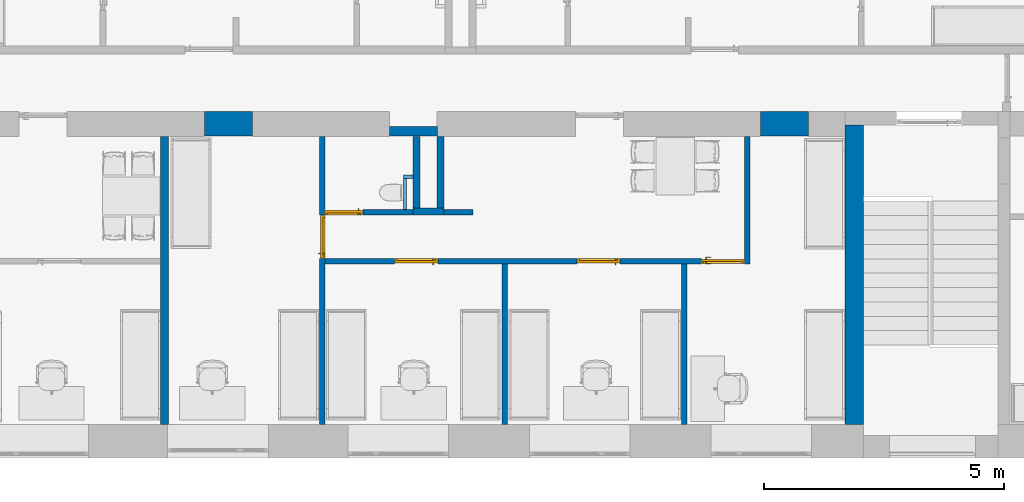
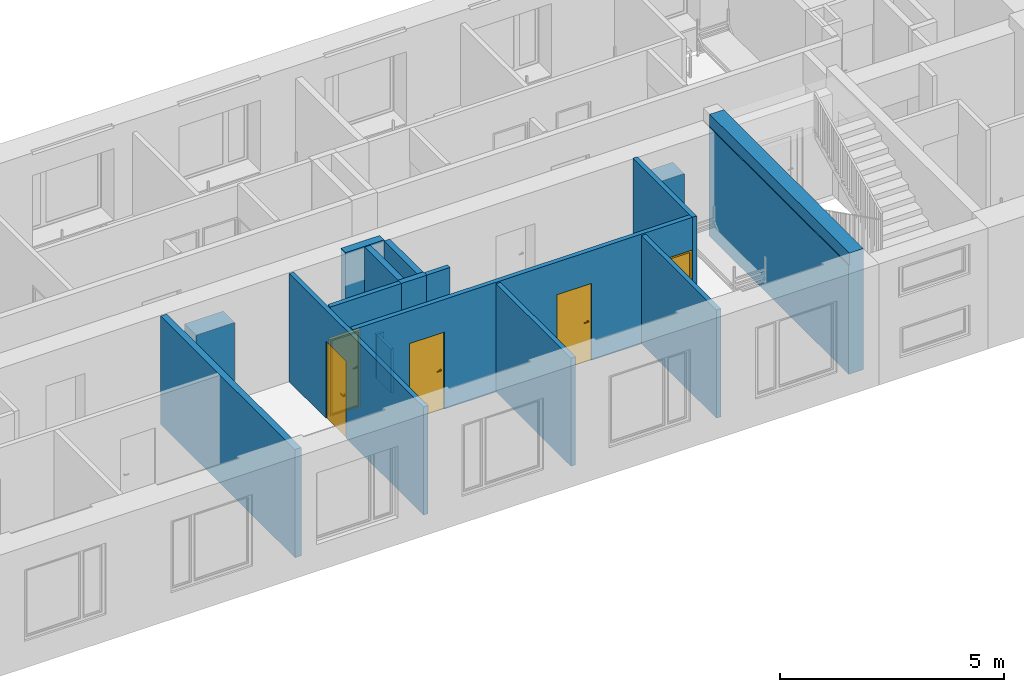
# One storey, part 8 of 48: 17 walls, 5 doors, 7 openings.
"""IFC2X3 building model written with IfcOpenShell, lengths in millimetres."""

import ifcopenshell
import ifcopenshell.guid

model = None  # the IFC model being written
_history = None  # IfcOwnerHistory: only IFC2X3 demands one
_inside = {}  # id of a spatial element -> (the spatial element, [elements in it])
_under = {}  # id of a project, library or spatial element -> (it, [spatial elements below it])
_declared = {}  # id of a project -> (the project, [libraries it declares])
_typed = {}  # id of a type object -> (the type object, [elements of that type])
_made_of = {}  # id of a material, layer set ... -> (it, [elements and type objects made of it])


def new_model(schema):
    """Start an empty IFC model of exactly this schema.

    Asked for "IFC4X3", IfcOpenShell would pick the latest addendum, in which some entities
    have other attributes; the version numbers below select the first issue.
    IFC2X3 requires an IfcOwnerHistory on every rooted entity: one is made here for all.
    """
    global model, _history
    if schema == "IFC4X3":
        model = ifcopenshell.file(schema_version=(4, 3, 0, 0))
    else:
        model = ifcopenshell.file(schema=schema)
    _inside.clear()
    _under.clear()
    _declared.clear()
    _typed.clear()
    _made_of.clear()
    _history = None
    if model.schema == "IFC2X3":
        org = make("IfcOrganization", Name="unknown")
        user = make(
            "IfcPersonAndOrganization",
            ThePerson=make("IfcPerson", FamilyName="unknown"),
            TheOrganization=org,
        )
        app = make(
            "IfcApplication",
            ApplicationDeveloper=org,
            Version="unknown",
            ApplicationFullName="unknown",
            ApplicationIdentifier="unknown",
        )
        _history = make(
            "IfcOwnerHistory",
            OwningUser=user,
            OwningApplication=app,
            ChangeAction="ADDED",
            CreationDate=0,
        )
    return model


def make(cls, **values):
    """One entity of the class cls with the attributes given. An attribute that is None is left unset."""
    return model.create_entity(
        cls, **{name: value for name, value in values.items() if value is not None}
    )


def entity(cls, *values):
    """Any entity or typed value of the class cls, its attributes in the order of the schema. None: left unset."""
    e = model.create_entity(cls)
    for i, value in enumerate(values):
        if value is not None:
            e[i] = value
    return e


def rooted(cls, **values):
    """An entity with a GlobalId (a new one), such as an element, a storey or a relation."""
    return make(cls, GlobalId=ifcopenshell.guid.new(), OwnerHistory=_history, **values)


def si_unit(unit_type, name, prefix=None):
    """IfcSIUnit, for example si_unit("LENGTHUNIT", "METRE", prefix="MILLI")."""
    return make("IfcSIUnit", UnitType=unit_type, Prefix=prefix, Name=name)


def converted_unit(unit_type, name, factor, base, dimensions=None, offset=None):
    """IfcConversionBasedUnit, such as the inch: factor (a typed value) times the base unit."""
    return make(
        "IfcConversionBasedUnit"
        if offset is None
        else "IfcConversionBasedUnitWithOffset",
        ConversionOffset=offset,
        Dimensions=None
        if dimensions is None
        else entity("IfcDimensionalExponents", *dimensions),
        UnitType=unit_type,
        Name=name,
        ConversionFactor=make(
            "IfcMeasureWithUnit", ValueComponent=factor, UnitComponent=base
        ),
    )


def derived_unit(unit_type, elements):
    """IfcDerivedUnit: a product of units, each with its exponent."""
    return make(
        "IfcDerivedUnit",
        Elements=[
            make("IfcDerivedUnitElement", Unit=unit, Exponent=power)
            for unit, power in elements
        ],
        UnitType=unit_type,
    )


def assignment(units):
    """IfcUnitAssignment: the units of a project."""
    return None if units is None else make("IfcUnitAssignment", Units=units)


def point(xyz):
    """IfcCartesianPoint."""
    return None if xyz is None else make("IfcCartesianPoint", Coordinates=xyz)


def direction(xyz):
    """IfcDirection."""
    return None if xyz is None else make("IfcDirection", DirectionRatios=xyz)


def frame(location, z_axis=None, x_axis=None):
    """IfcAxis2Placement3D, a coordinate frame: its origin and axes. An axis left out is left unset."""
    return make(
        "IfcAxis2Placement3D",
        Location=point(location),
        Axis=direction(z_axis),
        RefDirection=direction(x_axis),
    )


def frame_2d(location, x_axis=None):
    """IfcAxis2Placement2D, a coordinate frame in the plane: its origin and x axis."""
    return make(
        "IfcAxis2Placement2D", Location=point(location), RefDirection=direction(x_axis)
    )


def origin():
    """The frame at (0, 0, 0) with its axes left unset."""
    return frame((0.0, 0.0, 0.0))


def place(relative_to, where):
    """IfcLocalPlacement: puts the frame where relative to a parent placement (None: the world)."""
    return make(
        "IfcLocalPlacement", PlacementRelTo=relative_to, RelativePlacement=where
    )


def context(
    kind, dimensions, precision=None, world=None, true_north=None, identifier=None
):
    """IfcGeometricRepresentationContext, for example the 3D "Model" context."""
    return make(
        "IfcGeometricRepresentationContext",
        ContextIdentifier=identifier,
        ContextType=kind,
        CoordinateSpaceDimension=dimensions,
        Precision=precision,
        WorldCoordinateSystem=world,
        TrueNorth=true_north,
    )


def subcontext(parent, identifier, kind, view, scale=None):
    """IfcGeometricRepresentationSubContext, for example "Body" below "Model"."""
    return make(
        "IfcGeometricRepresentationSubContext",
        ContextIdentifier=identifier,
        ContextType=kind,
        ParentContext=parent,
        TargetScale=scale,
        TargetView=view,
    )


def project(units=None, contexts=None):
    """IfcProject with its units and contexts."""
    return rooted(
        "IfcProject",
        Name="project",
        RepresentationContexts=contexts,
        UnitsInContext=assignment(units),
    )


def spatial(cls, under=None, at=None, **own):
    """A site, building, storey or space (cls), placed at a placement, below another one or the project."""
    s = rooted(cls, ObjectPlacement=at, **own)
    if under is not None:
        _under.setdefault(under.id(), (under, []))[1].append(s)
    return s


def polyline(points):
    """IfcPolyline through the points."""
    return make("IfcPolyline", Points=[point(p) for p in points])


def profile(cls, at=None, kind="AREA", **sizes):
    """A parametric profile (cls). Its sizes go by their IFC names, for example OverallWidth=200.0."""
    return make(cls, ProfileType=kind, Position=at, **sizes)


def rectangle(**sizes):
    """IfcRectangleProfileDef."""
    return profile("IfcRectangleProfileDef", **sizes)


def extrude(swept, where, along, depth):
    """IfcExtrudedAreaSolid: the profile swept, set in the frame where, extruded along a direction by depth."""
    return make(
        "IfcExtrudedAreaSolid",
        SweptArea=swept,
        Position=where,
        ExtrudedDirection=direction(along),
        Depth=depth,
    )


def clip(a, b, op="DIFFERENCE"):
    """IfcBooleanClippingResult: the solid a cut by the half space b."""
    return make(
        "IfcBooleanClippingResult", Operator=op, FirstOperand=a, SecondOperand=b
    )


def bounded_halfspace(plane, agree, where, boundary):
    """IfcPolygonalBoundedHalfSpace: a half space limited to a polygon's prism."""
    return make(
        "IfcPolygonalBoundedHalfSpace",
        BaseSurface=make("IfcPlane", Position=plane),
        AgreementFlag=agree,
        Position=where,
        PolygonalBoundary=boundary,
    )


def faces_of(points, faces, orient=None, outer=None):
    """IfcFace entities. A face is a list of loops; a loop is a list of indices into points, from 0.

    orient and outer hold one flag for each loop. By default every Orientation is true, the
    first loop of a face is its IfcFaceOuterBound and the others are IfcFaceBound.
    """
    made = []
    for i, loops in enumerate(faces):
        bounds = []
        for j, loop in enumerate(loops):
            is_outer = j == 0 if outer is None else outer[i][j]
            bounds.append(
                make(
                    "IfcFaceOuterBound" if is_outer else "IfcFaceBound",
                    Bound=make("IfcPolyLoop", Polygon=[points[k] for k in loop]),
                    Orientation=True if orient is None else orient[i][j],
                )
            )
        made.append(make("IfcFace", Bounds=bounds))
    return made


def faceted_brep(points, faces, orient=None, outer=None, voids=None):
    """IfcFacetedBrep: a solid bounded by flat faces; with voids (closed shells), ...WithVoids."""
    shared = [point(p) for p in points]
    hull = make("IfcClosedShell", CfsFaces=faces_of(shared, faces, orient, outer))
    if voids is None:
        return make("IfcFacetedBrep", Outer=hull)
    return make(
        "IfcFacetedBrepWithVoids",
        Outer=hull,
        Voids=[
            make(cls, CfsFaces=faces_of(shared, fs, o, b)) for cls, fs, o, b in voids
        ],
    )


def shape(context_of_items, identifier, shape_type, items):
    """IfcShapeRepresentation: the items that make up one representation, for example the "Body"."""
    return make(
        "IfcShapeRepresentation",
        ContextOfItems=context_of_items,
        RepresentationIdentifier=identifier,
        RepresentationType=shape_type,
        Items=items,
    )


def source(mapping_origin, context_of_items, identifier, shape_type, items):
    """IfcRepresentationMap: a shape defined once, which mapped items show again and again."""
    return make(
        "IfcRepresentationMap",
        MappingOrigin=mapping_origin,
        MappedRepresentation=shape(context_of_items, identifier, shape_type, items),
    )


def transform(
    local_origin,
    x_axis=None,
    y_axis=None,
    z_axis=None,
    scale=None,
    scale2=None,
    scale3=None,
    uniform=True,
):
    """IfcCartesianTransformationOperator3D, or its non-uniform kind. x_axis, y_axis, z_axis: its Axis1, 2, 3."""
    if uniform:
        return make(
            "IfcCartesianTransformationOperator3D",
            Axis1=direction(x_axis),
            Axis2=direction(y_axis),
            LocalOrigin=point(local_origin),
            Scale=scale,
            Axis3=direction(z_axis),
        )
    return make(
        "IfcCartesianTransformationOperator3DnonUniform",
        Axis1=direction(x_axis),
        Axis2=direction(y_axis),
        LocalOrigin=point(local_origin),
        Scale=scale,
        Axis3=direction(z_axis),
        Scale2=scale2,
        Scale3=scale3,
    )


def mapped(mapping_source, mapping_target):
    """IfcMappedItem: shows the shape of a source again, moved by a transform."""
    return make(
        "IfcMappedItem", MappingSource=mapping_source, MappingTarget=mapping_target
    )


def material(Name=None, Category=None):
    """IfcMaterial."""
    return make("IfcMaterial", Name=Name, Category=Category)


def material_list(materials):
    """IfcMaterialList."""
    return make("IfcMaterialList", Materials=materials)


def layer(
    of_material, thickness, ventilated=None, Name=None, Category=None, Priority=None
):
    """IfcMaterialLayer: one layer of a wall or slab, of a material (None: an air gap)."""
    return make(
        "IfcMaterialLayer",
        Material=of_material,
        LayerThickness=thickness,
        IsVentilated=ventilated,
        Name=Name,
        Category=Category,
        Priority=Priority,
    )


def layer_set(layers, Name=None):
    """IfcMaterialLayerSet."""
    return make("IfcMaterialLayerSet", MaterialLayers=layers, LayerSetName=Name)


def layer_usage(for_layer_set, set_direction, sense, offset, extent=None):
    """IfcMaterialLayerSetUsage: how a layer set lies in its element."""
    return make(
        "IfcMaterialLayerSetUsage",
        ForLayerSet=for_layer_set,
        LayerSetDirection=set_direction,
        DirectionSense=sense,
        OffsetFromReferenceLine=offset,
        ReferenceExtent=extent,
    )


def made_of(thing, what):
    """Note that an element or type object is made of a material, layer set ...; save() writes the relation."""
    if what is not None:
        _made_of.setdefault(what.id(), (what, []))[1].append(thing)
    return thing


def type_object(cls, material=None, **own):
    """A type object (cls), such as IfcWallType, which elements share."""
    return made_of(rooted(cls, **own), material)


def type_shapes(of_type, sources):
    """Give a type object the sources (RepresentationMaps) that its elements show as mapped items."""
    of_type.RepresentationMaps = sources


def element(
    cls,
    number,
    at=None,
    inside=None,
    cuts=None,
    type_object=None,
    material=None,
    context=None,
    identifier="Body",
    shape_type=None,
    held_by="IfcProductDefinitionShape",
    body=None,
    shapes=None,
    **own,
):
    """One element of the class cls, such as IfcWall. Its Tag is "e" and its number.

    at: its placement. inside: the storey or other place that contains it. cuts: it is an
    opening in that element (IfcRelVoidsElement). A single representation is given by context,
    identifier, shape_type and body (its items); several are given by shapes. held_by: the class
    of the entity that holds the representations. save() writes the other relations.
    """
    e = rooted(cls, Tag="e%d" % number, ObjectPlacement=at, **own)
    if body is not None:
        shapes = [shape(context, identifier, shape_type, body)]
    if shapes is not None:
        e.Representation = make(held_by, Representations=shapes)
    if inside is not None:
        _inside.setdefault(inside.id(), (inside, []))[1].append(e)
    if cuts is not None:
        rooted(
            "IfcRelVoidsElement", RelatingBuildingElement=cuts, RelatedOpeningElement=e
        )
    if type_object is not None:
        _typed.setdefault(type_object.id(), (type_object, []))[1].append(e)
    return made_of(e, material)


def fill(opening, filler):
    """IfcRelFillsElement: the door or window that sits in an opening."""
    return rooted(
        "IfcRelFillsElement",
        RelatingOpeningElement=opening,
        RelatedBuildingElement=filler,
    )


def aggregate(whole, parts):
    """IfcRelAggregates: a whole, such as a stair, and the parts it consists of."""
    return rooted("IfcRelAggregates", RelatingObject=whole, RelatedObjects=parts)


def save(model, path):
    """Write the relations noted so far, then the file.

    IfcRelAggregates (storeys below a building ...), IfcRelContainedInSpatialStructure (elements
    in a storey), IfcRelDefinesByType, IfcRelAssociatesMaterial and IfcRelDeclares: one each for
    every whole, place, type object, material and project.
    """
    for whole, parts in _under.values():
        aggregate(whole, parts)
    for where, things in _inside.values():
        rooted(
            "IfcRelContainedInSpatialStructure",
            RelatedElements=things,
            RelatingStructure=where,
        )
    for kind, things in _typed.values():
        rooted("IfcRelDefinesByType", RelatedObjects=things, RelatingType=kind)
    for what, things in _made_of.values():
        rooted("IfcRelAssociatesMaterial", RelatedObjects=things, RelatingMaterial=what)
    for by, libraries in _declared.values():
        rooted("IfcRelDeclares", RelatingContext=by, RelatedDefinitions=libraries)
    model.write(path)


model = new_model("IFC2X3")

# Units and contexts
model_context = context("Model", 3, precision=0.01, world=origin(), true_north=direction((6.12303176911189e-17, 1.0)))
body_context = subcontext(model_context, "Body", "Model", "MODEL_VIEW")
ifc_project = project(units=[si_unit("LENGTHUNIT", "METRE", prefix="MILLI"), si_unit("AREAUNIT", "SQUARE_METRE"), si_unit("VOLUMEUNIT", "CUBIC_METRE"), converted_unit("PLANEANGLEUNIT", "DEGREE", entity("IfcRatioMeasure", 0.0174532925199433), si_unit("PLANEANGLEUNIT", "RADIAN"), dimensions=[0, 0, 0, 0, 0, 0, 0]), si_unit("MASSUNIT", "GRAM", prefix="KILO"), derived_unit("MASSDENSITYUNIT", [(si_unit("MASSUNIT", "GRAM", prefix="KILO"), 1), (si_unit("LENGTHUNIT", "METRE"), -3)]), si_unit("TIMEUNIT", "SECOND"), si_unit("FREQUENCYUNIT", "HERTZ"), si_unit("THERMODYNAMICTEMPERATUREUNIT", "DEGREE_CELSIUS"), derived_unit("THERMALTRANSMITTANCEUNIT", [(si_unit("MASSUNIT", "GRAM", prefix="KILO"), 1), (si_unit("THERMODYNAMICTEMPERATUREUNIT", "KELVIN"), -1), (si_unit("TIMEUNIT", "SECOND"), -3)]), derived_unit("VOLUMETRICFLOWRATEUNIT", [(si_unit("LENGTHUNIT", "METRE"), 3), (si_unit("TIMEUNIT", "SECOND"), -1)]), si_unit("ELECTRICCURRENTUNIT", "AMPERE"), si_unit("ELECTRICVOLTAGEUNIT", "VOLT"), si_unit("POWERUNIT", "WATT"), si_unit("FORCEUNIT", "NEWTON", prefix="KILO"), si_unit("ILLUMINANCEUNIT", "LUX"), si_unit("LUMINOUSFLUXUNIT", "LUMEN"), si_unit("LUMINOUSINTENSITYUNIT", "CANDELA"), derived_unit("USERDEFINED", [(si_unit("MASSUNIT", "GRAM", prefix="KILO"), -1), (si_unit("LENGTHUNIT", "METRE"), -2), (si_unit("TIMEUNIT", "SECOND"), 3), (si_unit("LUMINOUSFLUXUNIT", "LUMEN"), 1)]), derived_unit("LINEARVELOCITYUNIT", [(si_unit("LENGTHUNIT", "METRE"), 1), (si_unit("TIMEUNIT", "SECOND"), -1)]), si_unit("PRESSUREUNIT", "PASCAL"), derived_unit("USERDEFINED", [(si_unit("LENGTHUNIT", "METRE"), -2), (si_unit("MASSUNIT", "GRAM", prefix="KILO"), 1), (si_unit("TIMEUNIT", "SECOND"), -2)]), derived_unit("LINEARFORCEUNIT", [(si_unit("MASSUNIT", "GRAM", prefix="KILO"), 1), (si_unit("LENGTHUNIT", "METRE"), 1), (si_unit("TIMEUNIT", "SECOND"), -2), (si_unit("LENGTHUNIT", "METRE"), -1)]), derived_unit("PLANARFORCEUNIT", [(si_unit("MASSUNIT", "GRAM", prefix="KILO"), 1), (si_unit("LENGTHUNIT", "METRE"), 1), (si_unit("TIMEUNIT", "SECOND"), -2), (si_unit("LENGTHUNIT", "METRE"), -2)])], contexts=[model_context])

# Site, building, storey
site_placement = place(None, origin())
site = spatial("IfcSite", under=ifc_project, at=site_placement, Name="Default", CompositionType="ELEMENT")
building_placement = place(site_placement, origin())
building = spatial("IfcBuilding", under=site, at=building_placement, Name="SMA ARH", CompositionType="ELEMENT")
storey_placement = place(building_placement, frame((0.0, 0.0, 3300.0)))
storey = spatial("IfcBuildingStorey", under=building, at=storey_placement, Name="2 Korrus", CompositionType="ELEMENT", Elevation=3299.99999999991)

# Walls
ifc_material_1 = material(Name="EST. Müüritis. Väikeplokk. Kergkruusplokk")
ifc_layer_1 = layer(ifc_material_1, 150.0)
ifc_layer_set_1 = layer_set([ifc_layer_1], Name="Basic Wall:SS-02_ 150mm šahtide vahesein")
ifc_layer_usage_1 = layer_usage(ifc_layer_set_1, "AXIS2", "NEGATIVE", 75.0)
wall_type_1 = type_object("IfcWallType", Name="Basic Wall:SS-02_ 150mm šahtide vahesein", PredefinedType="STANDARD", material=ifc_layer_set_1)
wall_1_placement = place(storey_placement, frame((21495.0, 6000.0, 0.0), z_axis=(0.0, 0.0, 1.0), x_axis=(0.0, -1.0, 0.0)))
element("IfcWallStandardCase", 1, at=wall_1_placement, inside=storey, type_object=wall_type_1, material=ifc_layer_usage_1, Name="Basic Wall:SS-02_ 150mm šahtide vahesein", ObjectType="Basic Wall:SS-02_ 150mm šahtide vahesein", context=body_context, shape_type="SweptSolid", body=[
    extrude(rectangle(XDim=1490.00000000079, YDim=150.000000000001, at=frame_2d((745.000000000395, -7.105427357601e-15), x_axis=(-1.0, 0.0))), origin(), (0.0, 0.0, 1.0), 2989.99999999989),
])
ifc_layer_usage_2 = layer_usage(ifc_layer_set_1, "AXIS2", "NEGATIVE", 75.0)
wall_2_placement = place(storey_placement, frame((21420.0, 4435.0, 0.0)))
element("IfcWallStandardCase", 2, at=wall_2_placement, inside=storey, type_object=wall_type_1, material=ifc_layer_usage_2, Name="Basic Wall:SS-02_ 150mm šahtide vahesein", ObjectType="Basic Wall:SS-02_ 150mm šahtide vahesein", context=body_context, shape_type="SweptSolid", body=[
    extrude(rectangle(XDim=649.999999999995, YDim=150.000000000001, at=frame_2d((324.999999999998, -7.105427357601e-14), x_axis=(-1.0, 0.0))), origin(), (0.0, 0.0, 1.0), 2989.99999999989),
])
ifc_layer_usage_3 = layer_usage(ifc_layer_set_1, "AXIS2", "NEGATIVE", 75.0)
wall_3_placement = place(storey_placement, frame((21995.0, 4510.0, 0.0), z_axis=(0.0, 0.0, 1.0), x_axis=(0.0, 1.0, 0.0)))
element("IfcWallStandardCase", 3, at=wall_3_placement, inside=storey, type_object=wall_type_1, material=ifc_layer_usage_3, Name="Basic Wall:SS-02_ 150mm šahtide vahesein", ObjectType="Basic Wall:SS-02_ 150mm šahtide vahesein", context=body_context, shape_type="SweptSolid", body=[
    extrude(rectangle(XDim=1490.00000000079, YDim=150.000000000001, at=frame_2d((745.000000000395, 3.5527136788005e-14), x_axis=(-1.0, 0.0))), origin(), (0.0, 0.0, 1.0), 2979.99999999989),
])
ifc_material_2 = material(Name="_ol.olev sein")
ifc_layer_2 = layer(ifc_material_2, 380.0)
ifc_layer_set_2 = layer_set([ifc_layer_2], Name="Basic Wall:Generic - 380mm")
ifc_layer_usage_4 = layer_usage(ifc_layer_set_2, "AXIS2", "POSITIVE", -190.0)
wall_type_2 = type_object("IfcWallType", Name="Basic Wall:Generic - 380mm", PredefinedType="STANDARD", material=ifc_layer_set_2)
wall_4_placement = place(storey_placement, frame((30620.0, 6240.0, 0.0), z_axis=(0.0, 0.0, 1.0), x_axis=(0.0, -1.0, 0.0)))
element("IfcWallStandardCase", 4, at=wall_4_placement, inside=storey, type_object=wall_type_2, material=ifc_layer_usage_4, Name="Basic Wall:Generic - 380mm", ObjectType="Basic Wall:Generic - 380mm", context=body_context, shape_type="Clipping", body=[
    clip(clip(extrude(rectangle(XDim=6240.00000000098, YDim=380.0, at=frame_2d((3120.00000000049, 1.70530256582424e-13), x_axis=(-1.0, 0.0))), origin(), (0.0, 0.0, 1.0), 3299.99999999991), bounded_halfspace(frame((6240.0, -170.0, 2970.0), z_axis=(0.0, 0.0, -1.0), x_axis=(-1.0, 0.0, 0.0)), True, frame((6240.0, -170.0, 2970.0), z_axis=(0.0, 0.0, -1.0), x_axis=(-1.0, 0.0, 0.0)), polyline([(0.0, 0.0), (0.0, -20.0), (6000.0, -20.0), (6240.0, -20.0), (6240.0, 0.0), (0.0, 0.0)]))), bounded_halfspace(frame((0.0, -170.0, 2970.0), z_axis=(0.0, 1.0, 0.0), x_axis=(0.0, 0.0, 1.0)), True, frame((0.0, -170.0, 2970.0), z_axis=(0.0, 1.0, 0.0), x_axis=(0.0, 0.0, 1.0)), polyline([(0.0, 0.0), (330.0, 0.0), (330.0, 235.0), (330.0, 6240.0), (0.0, 6240.0), (0.0, 0.0)]))),
])
ifc_material_3 = material(Name="EST. Ehitusplaat. Kipsplaat")
ifc_layer_3 = layer(ifc_material_3, 12.5)
ifc_layer_4 = layer(ifc_material_3, 12.5)
ifc_material_4 = material(Name="EST. Soojustus. Mineraalvill. Default")
ifc_layer_5 = layer(ifc_material_4, 50.0)
ifc_layer_6 = layer(ifc_material_3, 12.5)
ifc_layer_7 = layer(ifc_material_4, 50.0)
ifc_layer_8 = layer(ifc_material_3, 12.5)
ifc_layer_9 = layer(ifc_material_3, 12.5)
ifc_layer_set_3 = layer_set([ifc_layer_3, ifc_layer_4, ifc_layer_5, ifc_layer_6, ifc_layer_7, ifc_layer_8, ifc_layer_9], Name="Basic Wall:SS-04_Kips, 50+50 mm metallkarkass 2")
ifc_layer_usage_5 = layer_usage(ifc_layer_set_3, "AXIS2", "NEGATIVE", 81.25)
wall_type_3 = type_object("IfcWallType", Name="Basic Wall:SS-04_Kips, 50+50 mm metallkarkass 2", PredefinedType="STANDARD", material=ifc_layer_set_3)
wall_5_placement = place(storey_placement, frame((16239.2500000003, 0.0, 0.0), z_axis=(0.0, 0.0, 1.0), x_axis=(0.0, 1.0, 0.0)))
element("IfcWallStandardCase", 5, at=wall_5_placement, inside=storey, type_object=wall_type_3, material=ifc_layer_usage_5, Name="Basic Wall:SS-04_Kips, 50+50 mm metallkarkass 2", ObjectType="Basic Wall:SS-04_Kips, 50+50 mm metallkarkass 2", context=body_context, shape_type="SweptSolid", body=[
    extrude(rectangle(XDim=6000.00000000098, YDim=162.500000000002, at=frame_2d((3000.00000000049, -7.105427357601e-15), x_axis=(-1.0, 0.0))), origin(), (0.0, 0.0, 1.0), 2949.99999999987),
])

# Wall, opening
ifc_layer_10 = layer(ifc_material_3, 12.5)
ifc_layer_11 = layer(ifc_material_3, 12.5)
ifc_layer_12 = layer(ifc_material_4, 66.0)
ifc_layer_13 = layer(ifc_material_3, 12.5)
ifc_layer_14 = layer(ifc_material_3, 12.5)
ifc_layer_set_4 = layer_set([ifc_layer_10, ifc_layer_11, ifc_layer_12, ifc_layer_13, ifc_layer_14], Name="Basic Wall:SS-05_Kips, 66mm metallkarkass")
ifc_layer_usage_6 = layer_usage(ifc_layer_set_4, "AXIS2", "NEGATIVE", 58.0)
wall_type_4 = type_object("IfcWallType", Name="Basic Wall:SS-05_Kips, 66mm metallkarkass", PredefinedType="STANDARD", material=ifc_layer_set_4)
wall_6_placement = place(storey_placement, frame((28388.4550000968, 6000.0, 0.0), z_axis=(0.0, 0.0, 1.0), x_axis=(0.0, -1.0, 0.0)))
wall_6 = element("IfcWallStandardCase", 6, at=wall_6_placement, inside=storey, type_object=wall_type_4, material=ifc_layer_usage_6, Name="Basic Wall:SS-05_Kips, 66mm metallkarkass", ObjectType="Basic Wall:SS-05_Kips, 66mm metallkarkass", context=body_context, shape_type="SweptSolid", body=[
    extrude(rectangle(XDim=2656.00000000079, YDim=116.0, at=frame_2d((1328.0000000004, 7.8159700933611e-14), x_axis=(-1.0, 0.0))), origin(), (0.0, 0.0, 1.0), 2989.99999999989),
])
opening_1_placement = place(wall_6_placement, origin())
element("IfcOpeningElement", 7, at=opening_1_placement, cuts=wall_6, Name="Basic Wall:SS-05_Kips, 66mm metallkarkass", ObjectType="Opening", context=body_context, shape_type="SweptSolid", body=[
    extrude(rectangle(XDim=2099.99999999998, YDim=116.0, at=frame_2d((-2.70006239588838e-13, 0.0), x_axis=(0.0, 1.0))), frame((2598.0, -958.0, 1050.0), z_axis=(0.0, 1.0, 0.0), x_axis=(-1.0, 0.0, 0.0)), (0.0, 0.0, 1.0), 899.999999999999),
])

# Wall, openings, doors
ifc_layer_usage_7 = layer_usage(ifc_layer_set_4, "AXIS2", "NEGATIVE", 58.0)
wall_7_placement = place(storey_placement, frame((19588.0, 3402.0, 0.0)))
wall_7 = element("IfcWallStandardCase", 8, at=wall_7_placement, inside=storey, type_object=wall_type_4, material=ifc_layer_usage_7, Name="Basic Wall:SS-05_Kips, 66mm metallkarkass", ObjectType="Basic Wall:SS-05_Kips, 66mm metallkarkass", context=body_context, shape_type="SweptSolid", body=[
    extrude(rectangle(XDim=8742.4550000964, YDim=116.0, at=frame_2d((4371.2275000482, 1.17239551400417e-13), x_axis=(-1.0, 0.0))), origin(), (0.0, 0.0, 1.0), 2989.99999999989),
])
opening_2_placement = place(wall_7_placement, frame((7842.45500009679, -58.0, 0.0)))
opening_2 = element("IfcOpeningElement", 9, at=opening_2_placement, cuts=wall_7, Name="SMA_D01, 1-poolne:SU-P-05 - 900x2100 TUBA:1", ObjectType="Opening", context=body_context, shape_type="SweptSolid", body=[
    extrude(rectangle(XDim=2099.99999999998, YDim=900.0, at=frame_2d((1049.99999999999, 450.0), x_axis=(1.0, 0.0))), frame((0.0, 0.0, 0.0), z_axis=(0.0, 1.0, 0.0), x_axis=(0.0, 0.0, 1.0)), (0.0, 0.0, 1.0), 116.0),
])
opening_3_placement = place(wall_7_placement, frame((6150.0, 58.0, 0.0)))
opening_3 = element("IfcOpeningElement", 10, at=opening_3_placement, cuts=wall_7, Name="SMA_D01, 1-poolne:SU-P-05 - 900x2100 TUBA:1", ObjectType="Opening", context=body_context, shape_type="SweptSolid", body=[
    extrude(rectangle(XDim=2099.99999999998, YDim=900.0, at=frame_2d((1049.99999999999, 450.0), x_axis=(1.0, 0.0))), frame((0.0, 0.0, 0.0), z_axis=(0.0, -1.0, 0.0), x_axis=(0.0, 0.0, 1.0)), (0.0, 0.0, 1.0), 116.0),
])
opening_4_placement = place(wall_7_placement, frame((2350.0, 58.0, 0.0)))
opening_4 = element("IfcOpeningElement", 11, at=opening_4_placement, cuts=wall_7, Name="SMA_D01, 1-poolne:SU-P-05 - 900x2100 TUBA:1", ObjectType="Opening", context=body_context, shape_type="SweptSolid", body=[
    extrude(rectangle(XDim=2099.99999999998, YDim=900.0, at=frame_2d((1049.99999999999, 450.0), x_axis=(1.0, 0.0))), frame((0.0, 0.0, 0.0), z_axis=(0.0, -1.0, 0.0), x_axis=(0.0, 0.0, 1.0)), (0.0, 0.0, 1.0), 116.0),
])
ifc_material_5 = material(Name="EST. Metall. Alumiinium. Värvitud. RAL7023 (Concrete grey)")
ifc_material_6 = material(Name="<Unnamed>")
ifc_material_7 = material(Name="EST. Klaas. 3x. Default")
ifc_material_list_1 = material_list([ifc_material_6, ifc_material_7, ifc_material_6, ifc_material_5, ifc_material_5, ifc_material_5, ifc_material_6])
door_style_1 = type_object("IfcDoorStyle", Name="SMA_D01, 1-poolne:SU-P-05 - 900x2100 TUBA", ConstructionType="NOTDEFINED", OperationType="SINGLE_SWING_RIGHT", ParameterTakesPrecedence=False, Sizeable=False, material=ifc_material_list_1)
shared_shape_1 = source(origin(), body_context, "Body", "Brep", [
    faceted_brep([(110.0, 6.0, 1112.5), (110.0, 44.0, 1112.5), (85.0, 44.0, 1112.5), (85.0, 1.0, 1112.5), (205.0, 1.0, 1112.5), (205.0, 6.0, 1112.5), (110.0, 6.0, 1087.5), (205.0, 6.0, 1087.5), (205.0, 1.0, 1087.5), (85.0, 1.0, 1087.5), (85.0, 44.0, 1087.5), (110.0, 44.0, 1087.5)], [[[0, 1, 2, 3, 4, 5]], [[6, 7, 8, 9, 10, 11]], [[1, 0, 6, 11]], [[2, 1, 11, 10]], [[3, 2, 10, 9]], [[4, 3, 9, 8]], [[5, 4, 8, 7]], [[0, 5, 7, 6]]]),
    faceted_brep([(122.5, 44.0, 1137.5), (122.5, 46.0, 1137.5), (72.5000000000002, 46.0, 1137.5), (72.5000000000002, 44.0, 1137.5), (122.5, 44.0, 1017.5), (72.5000000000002, 44.0, 1017.5), (72.5000000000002, 46.0, 1017.5), (122.5, 46.0, 1017.5)], [[[0, 1, 2, 3]], [[4, 5, 6, 7]], [[1, 0, 4, 7]], [[2, 1, 7, 6]], [[3, 2, 6, 5]], [[0, 3, 5, 4]]]),
    faceted_brep([(110.0, 136.0, 1112.5), (205.0, 136.0, 1112.5), (205.0, 141.0, 1112.5), (85.0, 141.0, 1112.5), (85.0, 98.0, 1112.5), (110.0, 98.0, 1112.5), (110.0, 136.0, 1087.5), (110.0, 98.0, 1087.5), (85.0, 98.0, 1087.5), (85.0, 141.0, 1087.5), (205.0, 141.0, 1087.5), (205.0, 136.0, 1087.5)], [[[0, 1, 2, 3, 4, 5]], [[6, 7, 8, 9, 10, 11]], [[5, 7, 6, 0]], [[4, 8, 7, 5]], [[3, 9, 8, 4]], [[2, 10, 9, 3]], [[1, 11, 10, 2]], [[0, 6, 11, 1]]]),
    faceted_brep([(122.5, 98.0, 1137.5), (72.5000000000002, 98.0, 1137.5), (72.5000000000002, 96.0, 1137.5), (122.5, 96.0, 1137.5), (122.5, 98.0, 1017.5), (122.5, 96.0, 1017.5), (72.5000000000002, 96.0, 1017.5), (72.5000000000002, 98.0, 1017.5)], [[[0, 1, 2, 3]], [[4, 5, 6, 7]], [[3, 5, 4, 0]], [[2, 6, 5, 3]], [[1, 7, 6, 2]], [[0, 4, 7, 1]]]),
    faceted_brep([(850.0, 6.0, 30.0), (850.0, 6.0, 0.0), (850.0, 46.0, 0.0), (850.0, 46.0, 20.0), (850.0, 46.0, 30.0), (50.0, 6.0, 30.0), (50.0, 46.0, 30.0), (50.0, 46.0, 20.0), (50.0, 46.0, 0.0), (50.0, 6.0, 0.0), (35.0, 46.0, 0.0), (35.0, 96.0, 0.0), (865.0, 96.0, 0.0), (865.0, 46.0, 0.0), (865.0, 96.0, 20.0), (865.0, 46.0, 20.0), (35.0, 96.0, 20.0), (35.0, 46.0, 20.0)], [[[0, 1, 2, 3, 4]], [[5, 6, 7, 8, 9]], [[1, 0, 5, 9]], [[2, 1, 9, 8, 10, 11, 12, 13]], [[6, 4, 3, 7]], [[0, 4, 6, 5]], [[14, 15, 13, 12]], [[16, 11, 10, 17]], [[15, 14, 16, 17, 7, 3]], [[13, 15, 3, 2]], [[14, 12, 11, 16]], [[17, 10, 8, 7]]]),
    faceted_brep([(890.0, 6.0, 0.0), (850.0, 6.0, 0.0), (850.0, 46.0, 0.0), (865.0, 46.0, 0.0), (865.0, 96.0, 0.0), (890.0, 96.0, 0.0), (890.0, 6.0, 2090.0), (10.0, 6.0, 2090.0), (10.0, 6.0, 0.0), (50.0, 6.0, 0.0), (50.0, 6.0, 2050.0), (850.0, 6.0, 2050.0), (850.0, 46.0, 2050.0), (50.0, 46.0, 2050.0), (50.0, 46.0, 0.0), (35.0, 46.0, 0.0), (35.0, 46.0, 2065.0), (865.0, 46.0, 2065.0), (865.0, 96.0, 2065.0), (35.0, 96.0, 2065.0), (35.0, 96.0, 0.0), (10.0, 96.0, 0.0), (10.0, 96.0, 2090.0), (890.0, 96.0, 2090.0)], [[[0, 1, 2, 3, 4, 5]], [[1, 0, 6, 7, 8, 9, 10, 11]], [[2, 1, 11, 12]], [[3, 2, 12, 13, 14, 15, 16, 17]], [[4, 3, 17, 18]], [[5, 4, 18, 19, 20, 21, 22, 23]], [[0, 5, 23, 6]], [[8, 7, 22, 21]], [[9, 8, 21, 20, 15, 14]], [[10, 9, 14, 13]], [[16, 15, 20, 19]], [[11, 10, 13, 12]], [[17, 16, 19, 18]], [[7, 6, 23, 22]]]),
    faceted_brep([(35.0, 46.0, 2065.0), (35.0, 46.0, 20.0), (865.0, 46.0, 20.0), (865.0, 46.0, 2065.0), (35.0, 96.0, 2065.0), (865.0, 96.0, 2065.0), (865.0, 96.0, 20.0), (35.0, 96.0, 20.0)], [[[0, 1, 2, 3]], [[4, 5, 6, 7]], [[1, 0, 4, 7]], [[2, 1, 7, 6]], [[3, 2, 6, 5]], [[0, 3, 5, 4]]]),
])
type_shapes(door_style_1, [shared_shape_1])
door_1_placement = place(opening_4_placement, frame((0.0, 0.0, 0.0), z_axis=(0.0, 0.0, 1.0), x_axis=(-1.0, 0.0, 0.0)))
door_1 = element("IfcDoor", 12, at=door_1_placement, inside=storey, type_object=door_style_1, material=ifc_material_5, Name="SMA_D01, 1-poolne:SU-P-05 - 900x2100 TUBA", ObjectType="SMA_D01, 1-poolne:SU-P-05 - 900x2100 TUBA", OverallHeight=2099.99999999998, OverallWidth=900.000000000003, context=body_context, shape_type="MappedRepresentation", body=[
    mapped(shared_shape_1, transform((0.0, 0.0, 0.0), scale=1.0)),
])
fill(opening_4, door_1)
door_2_placement = place(opening_3_placement, frame((0.0, 0.0, 0.0), z_axis=(0.0, 0.0, 1.0), x_axis=(-1.0, 0.0, 0.0)))
door_2 = element("IfcDoor", 13, at=door_2_placement, inside=storey, type_object=door_style_1, material=ifc_material_5, Name="SMA_D01, 1-poolne:SU-P-05 - 900x2100 TUBA", ObjectType="SMA_D01, 1-poolne:SU-P-05 - 900x2100 TUBA", OverallHeight=2099.99999999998, OverallWidth=899.999999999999, context=body_context, shape_type="MappedRepresentation", body=[
    mapped(shared_shape_1, transform((0.0, 0.0, 0.0), scale=1.0)),
])
fill(opening_3, door_2)
door_3_placement = place(opening_2_placement, origin())
door_3 = element("IfcDoor", 14, at=door_3_placement, inside=storey, type_object=door_style_1, material=ifc_material_5, Name="SMA_D01, 1-poolne:SU-P-05 - 900x2100 TUBA", ObjectType="SMA_D01, 1-poolne:SU-P-05 - 900x2100 TUBA", OverallHeight=2099.99999999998, OverallWidth=899.999999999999, context=body_context, shape_type="MappedRepresentation", body=[
    mapped(shared_shape_1, transform((0.0, 0.0, 0.0), scale=1.0)),
])
fill(opening_2, door_3)

# Wall
ifc_layer_usage_8 = layer_usage(ifc_layer_set_4, "AXIS2", "NEGATIVE", 58.0)
wall_8_placement = place(storey_placement, frame((23330.0, 0.0, 0.0), z_axis=(0.0, 0.0, 1.0), x_axis=(0.0, 1.0, 0.0)))
element("IfcWallStandardCase", 15, at=wall_8_placement, inside=storey, type_object=wall_type_4, material=ifc_layer_usage_8, Name="Basic Wall:SS-05_Kips, 66mm metallkarkass", ObjectType="Basic Wall:SS-05_Kips, 66mm metallkarkass", context=body_context, shape_type="SweptSolid", body=[
    extrude(rectangle(XDim=3344.00000000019, YDim=116.0, at=frame_2d((1672.0000000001, 1.4210854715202e-14), x_axis=(-1.0, 0.0))), origin(), (0.0, 0.0, 1.0), 2949.99999999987),
])

# Wall, openings, door
ifc_layer_usage_9 = layer_usage(ifc_layer_set_4, "AXIS2", "NEGATIVE", 58.0)
wall_9_placement = place(storey_placement, frame((19530.0, 0.0, 0.0), z_axis=(0.0, 0.0, 1.0), x_axis=(0.0, 1.0, 0.0)))
wall_9 = element("IfcWallStandardCase", 16, at=wall_9_placement, inside=storey, type_object=wall_type_4, material=ifc_layer_usage_9, Name="Basic Wall:SS-05_Kips, 66mm metallkarkass", ObjectType="Basic Wall:SS-05_Kips, 66mm metallkarkass", context=body_context, shape_type="SweptSolid", body=[
    extrude(rectangle(XDim=6000.00000000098, YDim=115.999999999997, at=frame_2d((3000.00000000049, -5.15143483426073e-13), x_axis=(-1.0, 0.0))), origin(), (0.0, 0.0, 1.0), 2949.99999999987),
])
opening_5_placement = place(wall_9_placement, origin())
element("IfcOpeningElement", 17, at=opening_5_placement, cuts=wall_9, Name="Basic Wall:SS-05_Kips, 66mm metallkarkass", ObjectType="Opening", context=body_context, shape_type="SweptSolid", body=[
    extrude(rectangle(XDim=2099.99999999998, YDim=116.0, at=frame_2d((-2.70006239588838e-13, 0.0), x_axis=(0.0, 1.0))), frame((4418.0, -850.0, 1050.0), z_axis=(0.0, 1.0, 0.0), x_axis=(-1.0, 0.0, 0.0)), (0.0, 0.0, 1.0), 800.0),
])
opening_6_placement = place(wall_9_placement, frame((3460.0, -58.0, 0.0)))
opening_6 = element("IfcOpeningElement", 18, at=opening_6_placement, cuts=wall_9, Name="SMA_D01, 1-poolne:SU-P-05 - 900x2100 TUBA:1", ObjectType="Opening", context=body_context, shape_type="SweptSolid", body=[
    extrude(rectangle(XDim=2099.99999999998, YDim=900.0, at=frame_2d((1049.99999999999, 450.0), x_axis=(1.0, 0.0))), frame((0.0, 0.0, 0.0), z_axis=(0.0, 1.0, 0.0), x_axis=(0.0, 0.0, 1.0)), (0.0, 0.0, 1.0), 116.0),
])
door_4_placement = place(opening_6_placement, origin())
door_4 = element("IfcDoor", 19, at=door_4_placement, inside=storey, type_object=door_style_1, material=ifc_material_5, Name="SMA_D01, 1-poolne:SU-P-05 - 900x2100 TUBA", ObjectType="SMA_D01, 1-poolne:SU-P-05 - 900x2100 TUBA", OverallHeight=2099.99999999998, OverallWidth=900.0, context=body_context, shape_type="MappedRepresentation", body=[
    mapped(shared_shape_1, transform((0.0, 0.0, 0.0), scale=1.0)),
])
fill(opening_6, door_4)

# Walls
ifc_layer_usage_10 = layer_usage(ifc_layer_set_4, "AXIS2", "POSITIVE", -58.0)
wall_10_placement = place(storey_placement, frame((27078.5000000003, 0.0, 0.0), z_axis=(0.0, 0.0, 1.0), x_axis=(0.0, 1.0, 0.0)))
element("IfcWallStandardCase", 20, at=wall_10_placement, inside=storey, type_object=wall_type_4, material=ifc_layer_usage_10, Name="Basic Wall:SS-05_Kips, 66mm metallkarkass", ObjectType="Basic Wall:SS-05_Kips, 66mm metallkarkass", context=body_context, shape_type="SweptSolid", body=[
    extrude(rectangle(XDim=3344.00000000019, YDim=116.0, at=frame_2d((1672.0000000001, -1.06581410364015e-14), x_axis=(-1.0, 0.0))), origin(), (0.0, 0.0, 1.0), 2949.99999999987),
])
ifc_layer_usage_11 = layer_usage(ifc_layer_set_4, "AXIS2", "NEGATIVE", 58.0)
wall_11_placement = place(storey_placement, frame((21995.0, 4418.0, 0.0)))
element("IfcWallStandardCase", 21, at=wall_11_placement, inside=storey, type_object=wall_type_4, material=ifc_layer_usage_11, Name="Basic Wall:SS-05_Kips, 66mm metallkarkass", ObjectType="Basic Wall:SS-05_Kips, 66mm metallkarkass", context=body_context, shape_type="SweptSolid", body=[
    extrude(rectangle(XDim=600.000000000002, YDim=116.0, at=frame_2d((375.000000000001, -5.40012479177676e-13), x_axis=(-1.0, 0.0))), origin(), (0.0, 0.0, 1.0), 2989.99999999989),
])

# Wall, opening, door
ifc_layer_usage_12 = layer_usage(ifc_layer_set_4, "AXIS2", "NEGATIVE", 58.0)
wall_12_placement = place(storey_placement, frame((21420.0, 4418.0, 0.0), z_axis=(0.0, 0.0, 1.0), x_axis=(-1.0, 0.0, 0.0)))
wall_12 = element("IfcWallStandardCase", 22, at=wall_12_placement, inside=storey, type_object=wall_type_4, material=ifc_layer_usage_12, Name="Basic Wall:SS-05_Kips, 66mm metallkarkass", ObjectType="Basic Wall:SS-05_Kips, 66mm metallkarkass", context=body_context, shape_type="SweptSolid", body=[
    extrude(rectangle(XDim=1831.99999999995, YDim=116.0, at=frame_2d((915.999999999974, -1.31450406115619e-13), x_axis=(-1.0, 0.0))), origin(), (0.0, 0.0, 1.0), 2989.99999999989),
])
opening_7_placement = place(wall_12_placement, frame((1840.0, 58.0, 0.0)))
opening_7 = element("IfcOpeningElement", 23, at=opening_7_placement, cuts=wall_12, Name="SMA_D01, 1-poolne:SU-P-06 - 800x2100 DUŠŠ:1", ObjectType="Opening", context=body_context, shape_type="SweptSolid", body=[
    extrude(rectangle(XDim=2099.99999999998, YDim=800.0, at=frame_2d((1049.99999999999, 400.0), x_axis=(1.0, 0.0))), frame((0.0, 0.0, 0.0), z_axis=(0.0, -1.0, 0.0), x_axis=(0.0, 0.0, 1.0)), (0.0, 0.0, 1.0), 116.0),
])
ifc_material_list_2 = material_list([ifc_material_5, ifc_material_5, ifc_material_6, ifc_material_7, ifc_material_6, ifc_material_6, ifc_material_5])
door_style_2 = type_object("IfcDoorStyle", Name="SMA_D01, 1-poolne:SU-P-06 - 800x2100 DUŠŠ", ConstructionType="NOTDEFINED", OperationType="NOTDEFINED", ParameterTakesPrecedence=False, Sizeable=False, material=ifc_material_list_2)
shared_shape_2 = source(origin(), body_context, "Body", "Brep", [
    faceted_brep([(690.0, 6.0, 1112.5), (595.0, 6.0, 1112.5), (595.0, 1.0, 1112.5), (715.0, 1.0, 1112.5), (715.0, 44.0, 1112.5), (690.0, 44.0, 1112.5), (690.0, 6.0, 1087.5), (690.0, 44.0, 1087.5), (715.0, 44.0, 1087.5), (715.0, 1.0, 1087.5), (595.0, 1.0, 1087.5), (595.0, 6.0, 1087.5)], [[[0, 1, 2, 3, 4, 5]], [[6, 7, 8, 9, 10, 11]], [[5, 7, 6, 0]], [[4, 8, 7, 5]], [[3, 9, 8, 4]], [[2, 10, 9, 3]], [[1, 11, 10, 2]], [[0, 6, 11, 1]]]),
    faceted_brep([(677.500000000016, 44.0, 1137.5), (727.500000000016, 44.0, 1137.5), (727.500000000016, 46.0, 1137.5), (677.500000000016, 46.0, 1137.5), (677.500000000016, 44.0, 1017.5), (677.500000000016, 46.0, 1017.5), (727.500000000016, 46.0, 1017.5), (727.500000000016, 44.0, 1017.5)], [[[0, 1, 2, 3]], [[4, 5, 6, 7]], [[3, 5, 4, 0]], [[2, 6, 5, 3]], [[1, 7, 6, 2]], [[0, 4, 7, 1]]]),
    faceted_brep([(690.0, 136.0, 1112.5), (690.0, 98.0, 1112.5), (715.0, 98.0, 1112.5), (715.0, 141.0, 1112.5), (595.0, 141.0, 1112.5), (595.0, 136.0, 1112.5), (690.0, 136.0, 1087.5), (595.0, 136.0, 1087.5), (595.0, 141.0, 1087.5), (715.0, 141.0, 1087.5), (715.0, 98.0, 1087.5), (690.0, 98.0, 1087.5)], [[[0, 1, 2, 3, 4, 5]], [[6, 7, 8, 9, 10, 11]], [[1, 0, 6, 11]], [[2, 1, 11, 10]], [[3, 2, 10, 9]], [[4, 3, 9, 8]], [[5, 4, 8, 7]], [[0, 5, 7, 6]]]),
    faceted_brep([(677.500000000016, 98.0, 1137.5), (677.500000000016, 96.0, 1137.5), (727.500000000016, 96.0, 1137.5), (727.500000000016, 98.0, 1137.5), (677.500000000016, 98.0, 1017.5), (727.500000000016, 98.0, 1017.5), (727.500000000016, 96.0, 1017.5), (677.500000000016, 96.0, 1017.5)], [[[0, 1, 2, 3]], [[4, 5, 6, 7]], [[1, 0, 4, 7]], [[2, 1, 7, 6]], [[3, 2, 6, 5]], [[0, 3, 5, 4]]]),
    faceted_brep([(50.0, 6.0, 30.0), (50.0, 46.0, 30.0), (50.0, 46.0, 20.0), (50.0, 46.0, 0.0), (50.0, 6.0, 0.0), (750.0, 6.0, 30.0), (750.0, 6.0, 0.0), (750.0, 46.0, 0.0), (750.0, 46.0, 20.0), (750.0, 46.0, 30.0), (35.0, 46.0, 0.0), (35.0, 96.0, 0.0), (765.0, 96.0, 0.0), (765.0, 46.0, 0.0), (35.0, 96.0, 20.0), (35.0, 46.0, 20.0), (765.0, 96.0, 20.0), (765.0, 46.0, 20.0)], [[[0, 1, 2, 3, 4]], [[5, 6, 7, 8, 9]], [[4, 6, 5, 0]], [[3, 10, 11, 12, 13, 7, 6, 4]], [[9, 8, 2, 1]], [[0, 5, 9, 1]], [[14, 11, 10, 15]], [[16, 17, 13, 12]], [[15, 2, 8, 17, 16, 14]], [[10, 3, 2, 15]], [[14, 16, 12, 11]], [[17, 8, 7, 13]]]),
    faceted_brep([(10.0, 6.0, 0.0), (10.0, 96.0, 0.0), (35.0, 96.0, 0.0), (35.0, 46.0, 0.0), (50.0, 46.0, 0.0), (50.0, 6.0, 0.0), (50.0, 6.0, 2050.0), (750.0, 6.0, 2050.0), (750.0, 6.0, 0.0), (790.0, 6.0, 0.0), (790.0, 6.0, 2090.0), (10.0, 6.0, 2090.0), (50.0, 46.0, 2050.0), (35.0, 46.0, 2065.0), (765.0, 46.0, 2065.0), (765.0, 46.0, 0.0), (750.0, 46.0, 0.0), (750.0, 46.0, 2050.0), (35.0, 96.0, 2065.0), (10.0, 96.0, 2090.0), (790.0, 96.0, 2090.0), (790.0, 96.0, 0.0), (765.0, 96.0, 0.0), (765.0, 96.0, 2065.0)], [[[0, 1, 2, 3, 4, 5]], [[5, 6, 7, 8, 9, 10, 11, 0]], [[4, 12, 6, 5]], [[3, 13, 14, 15, 16, 17, 12, 4]], [[2, 18, 13, 3]], [[1, 19, 20, 21, 22, 23, 18, 2]], [[0, 11, 19, 1]], [[9, 21, 20, 10]], [[8, 16, 15, 22, 21, 9]], [[7, 17, 16, 8]], [[14, 23, 22, 15]], [[6, 12, 17, 7]], [[13, 18, 23, 14]], [[10, 20, 19, 11]]]),
    faceted_brep([(765.0, 46.0, 2065.0), (35.0, 46.0, 2065.0), (35.0, 46.0, 20.0), (765.0, 46.0, 20.0), (765.0, 96.0, 2065.0), (765.0, 96.0, 20.0), (35.0, 96.0, 20.0), (35.0, 96.0, 2065.0)], [[[0, 1, 2, 3]], [[4, 5, 6, 7]], [[3, 5, 4, 0]], [[2, 6, 5, 3]], [[1, 7, 6, 2]], [[0, 4, 7, 1]]]),
])
type_shapes(door_style_2, [shared_shape_2])
door_5_placement = place(opening_7_placement, frame((0.0, 0.0, 0.0), z_axis=(0.0, 0.0, 1.0), x_axis=(-1.0, 0.0, 0.0)))
door_5 = element("IfcDoor", 24, at=door_5_placement, inside=storey, type_object=door_style_2, material=ifc_material_5, Name="SMA_D01, 1-poolne:SU-P-06 - 800x2100 DUŠŠ", ObjectType="SMA_D01, 1-poolne:SU-P-06 - 800x2100 DUŠŠ", OverallHeight=2099.99999999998, OverallWidth=800.0, context=body_context, shape_type="MappedRepresentation", body=[
    mapped(shared_shape_2, transform((0.0, 0.0, 0.0), scale=1.0)),
])
fill(opening_7, door_5)

# Walls
ifc_material_8 = material(Name="EST. Põrand. Plaatkate")
ifc_layer_15 = layer(ifc_material_8, 10.0)
ifc_layer_16 = layer(ifc_material_3, 12.5)
ifc_material_9 = material(Name="EST. Õhkvahe. Roov. Kipsplaadi alusroov. Vertikaalne")
ifc_layer_17 = layer(ifc_material_9, 42.0)
ifc_layer_set_5 = layer_set([ifc_layer_15, ifc_layer_16, ifc_layer_17], Name="Basic Wall:SS-04 - loputuskast")
ifc_layer_usage_13 = layer_usage(ifc_layer_set_5, "AXIS2", "NEGATIVE", 32.25)
wall_type_5 = type_object("IfcWallType", Name="Basic Wall:SS-04 - loputuskast", PredefinedType="STANDARD", material=ifc_layer_set_5)
wall_13_placement = place(storey_placement, frame((21252.2500000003, 4476.0, 0.0), z_axis=(0.0, 0.0, 1.0), x_axis=(0.0, 1.0, 0.0)))
element("IfcWallStandardCase", 25, at=wall_13_placement, inside=storey, type_object=wall_type_5, material=ifc_layer_usage_13, Name="Basic Wall:SS-04 - loputuskast", ObjectType="Basic Wall:SS-04 - loputuskast", context=body_context, shape_type="SweptSolid", body=[
    extrude(rectangle(XDim=652.500000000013, YDim=64.5000000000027, at=frame_2d((326.250000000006, 0.0), x_axis=(-1.0, 0.0))), origin(), (0.0, 0.0, 1.0), 1200.0),
])
ifc_layer_usage_14 = layer_usage(ifc_layer_set_5, "AXIS2", "NEGATIVE", 32.25)
wall_14_placement = place(storey_placement, frame((21220.0, 5160.74999999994, 0.0)))
element("IfcWallStandardCase", 26, at=wall_14_placement, inside=storey, type_object=wall_type_5, material=ifc_layer_usage_14, Name="Basic Wall:SS-04 - loputuskast", ObjectType="Basic Wall:SS-04 - loputuskast", context=body_context, shape_type="SweptSolid", body=[
    extrude(rectangle(XDim=199.999999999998, YDim=64.5000000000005, at=frame_2d((99.9999999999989, 0.0), x_axis=(-1.0, 0.0))), origin(), (0.0, 0.0, 1.0), 1200.0),
])
ifc_layer_18 = layer(ifc_material_1, 200.0)
ifc_layer_set_6 = layer_set([ifc_layer_18], Name="Basic Wall:SS-00_Fibo 200mm")
ifc_layer_usage_15 = layer_usage(ifc_layer_set_6, "AXIS2", "NEGATIVE", 100.0)
wall_type_6 = type_object("IfcWallType", Name="Basic Wall:SS-00_Fibo 200mm", PredefinedType="STANDARD", material=ifc_layer_set_6)
wall_15_placement = place(storey_placement, frame((20930.0, 6110.0, 0.0)))
element("IfcWallStandardCase", 27, at=wall_15_placement, inside=storey, type_object=wall_type_6, material=ifc_layer_usage_15, Name="Basic Wall:SS-00_Fibo 200mm", ObjectType="Basic Wall:SS-00_Fibo 200mm", context=body_context, shape_type="SweptSolid", body=[
    extrude(rectangle(XDim=999.999999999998, YDim=200.0, at=frame_2d((499.999999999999, 0.0), x_axis=(-1.0, 0.0))), origin(), (0.0, 0.0, 1.0), 2999.99999999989),
])
ifc_layer_19 = layer(ifc_material_1, 510.0)
ifc_layer_set_7 = layer_set([ifc_layer_19], Name="Basic Wall:SS-03_Fibo 510mm kinnilaotav ava")
ifc_layer_usage_16 = layer_usage(ifc_layer_set_7, "AXIS2", "NEGATIVE", 255.0)
wall_type_7 = type_object("IfcWallType", Name="Basic Wall:SS-03_Fibo 510mm kinnilaotav ava", PredefinedType="STANDARD", material=ifc_layer_set_7)
wall_16_placement = place(storey_placement, frame((17075.0, 6265.0, 0.0)))
element("IfcWallStandardCase", 28, at=wall_16_placement, inside=storey, type_object=wall_type_7, material=ifc_layer_usage_16, Name="Basic Wall:SS-03_Fibo 510mm kinnilaotav ava", ObjectType="Basic Wall:SS-03_Fibo 510mm kinnilaotav ava", context=body_context, shape_type="SweptSolid", body=[
    extrude(rectangle(XDim=1000.0, YDim=510.000000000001, at=frame_2d((500.0, 0.0), x_axis=(-1.0, 0.0))), origin(), (0.0, 0.0, 1.0), 2099.99999999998),
])
ifc_layer_usage_17 = layer_usage(ifc_layer_set_7, "AXIS2", "NEGATIVE", 255.0)
wall_17_placement = place(storey_placement, frame((28665.0, 6265.0, 0.0)))
element("IfcWallStandardCase", 29, at=wall_17_placement, inside=storey, type_object=wall_type_7, material=ifc_layer_usage_17, Name="Basic Wall:SS-03_Fibo 510mm kinnilaotav ava", ObjectType="Basic Wall:SS-03_Fibo 510mm kinnilaotav ava", context=body_context, shape_type="SweptSolid", body=[
    extrude(rectangle(XDim=999.999999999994, YDim=510.000000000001, at=frame_2d((499.999999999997, 0.0), x_axis=(-1.0, 0.0))), origin(), (0.0, 0.0, 1.0), 2099.99999999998),
])

save(model, "model.ifc")
